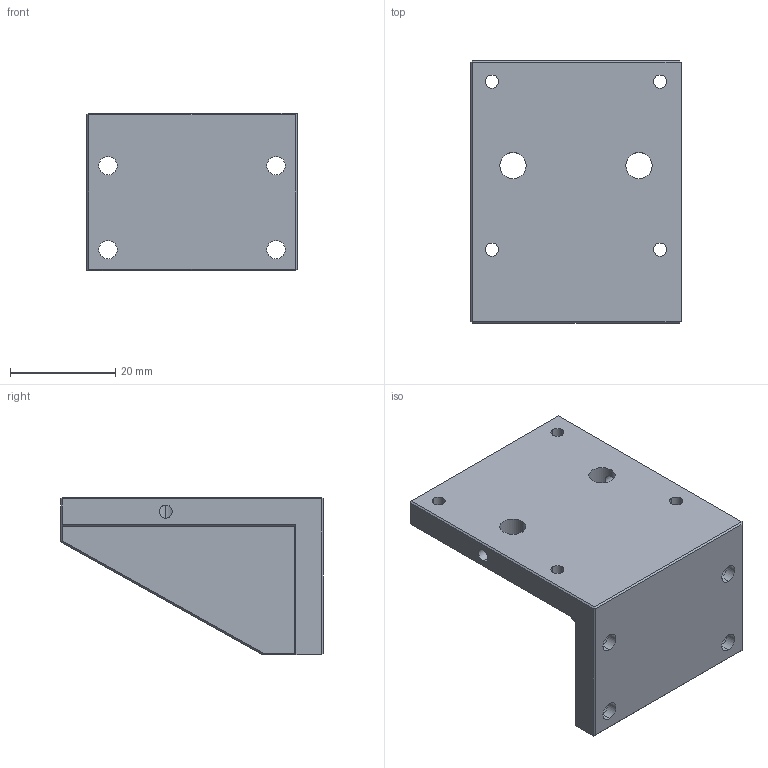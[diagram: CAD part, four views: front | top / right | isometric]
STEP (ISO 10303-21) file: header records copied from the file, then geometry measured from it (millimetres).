
FILE_DESCRIPTION (( 'STEP AP203' ), '1' );
FILE_NAME ('PHOB-10.STEP', '2024-04-01T07:13:03', ( '' ), ( '' ), 'SwSTEP 2.0', 'SolidWorks 2021', '' );
FILE_SCHEMA (( 'CONFIG_CONTROL_DESIGN' ));
Length unit declared in the file: millimetre
Products named in the file (1): PHOB-10
Bounding box: 40 x 50 x 30 mm (x, y, z)
Volume: 18895.2 mm3; surface area: 8965.7 mm2
Topology: 1 solids, 1 shells, 78 faces, 186 edges, 112 vertices
Faces by surface type: plane 46, cylinder 32
Entity records: 2423 total; most frequent: CARTESIAN_POINT 461, DIRECTION 400, ORIENTED_EDGE 372, EDGE_CURVE 186, AXIS2_PLACEMENT_3D 139, VECTOR 122, LINE 122, VERTEX_POINT 112
